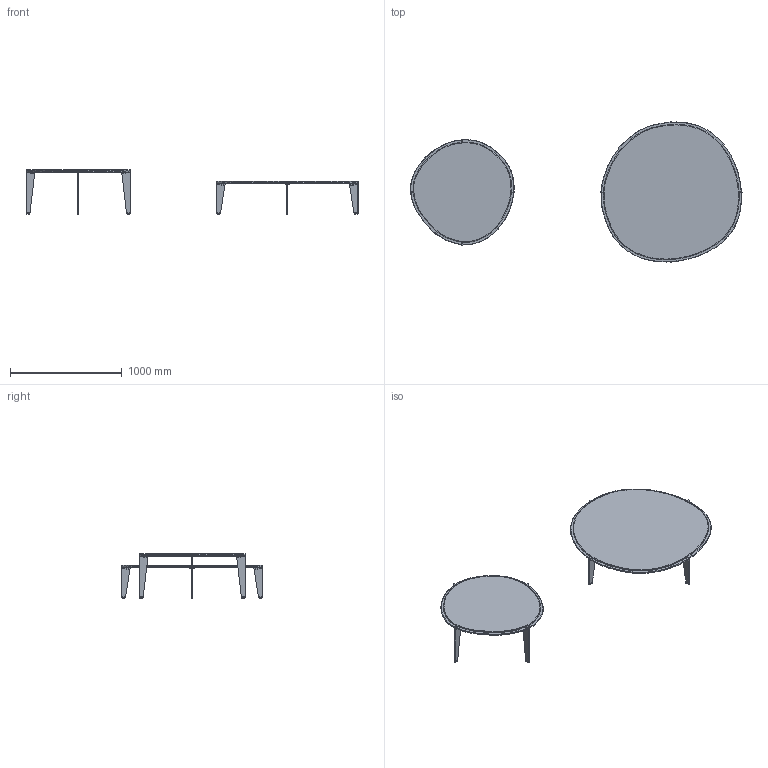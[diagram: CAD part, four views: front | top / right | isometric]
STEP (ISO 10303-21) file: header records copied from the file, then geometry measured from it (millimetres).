
FILE_DESCRIPTION(/* description */ (''),/* implementation_level */ '2;1');
FILE_NAME(/* name */ '3D_HAL~1',/* time_stamp */ '2024-04-29T12:42:22+02:00',/* author */ (''),/* organization */ (''),/* preprocessor_version */ 'ST-DEVELOPER v16.5',/* originating_system */ '',/* authorisation */ '');
FILE_SCHEMA (('AUTOMOTIVE_DESIGN'));
Products named in the file (1): Document
Bounding box: 2973.2 x 1262.11 x 397 mm (x, y, z)
Volume: 21155274.7 mm3; surface area: 4547733 mm2
Topology: 98 solids, 98 shells, 2096 faces, 5108 edges, 3308 vertices
Faces by surface type: bspline 1216, plane 880
Entity records: 85052 total; most frequent: CARTESIAN_POINT 53362, ORIENTED_EDGE 10216, EDGE_CURVE 5108, VERTEX_POINT 3308, B_SPLINE_CURVE_WITH_KNOTS 2829, EDGE_LOOP 2260, ADVANCED_FACE 2096, FACE_OUTER_BOUND 2096
